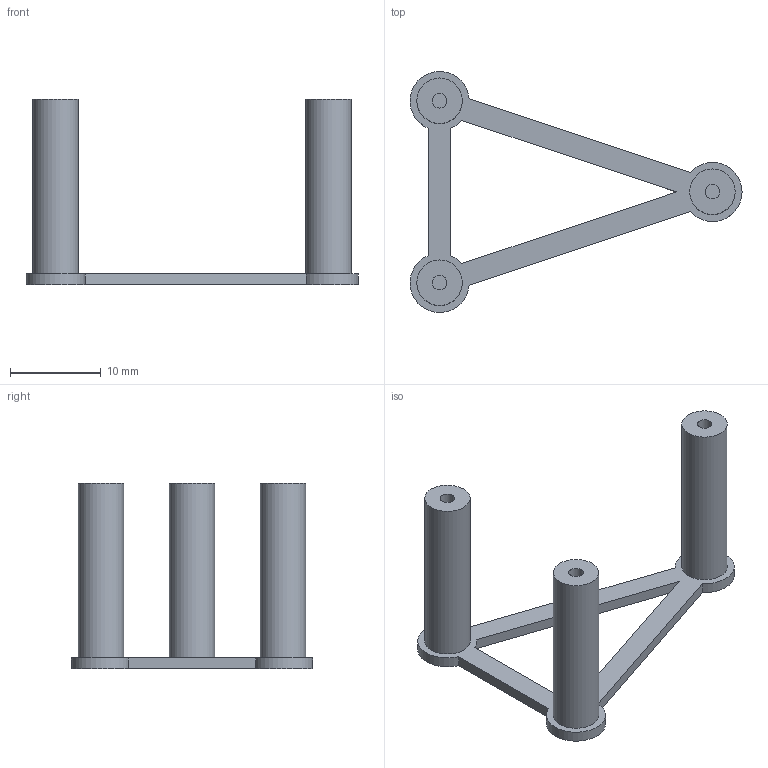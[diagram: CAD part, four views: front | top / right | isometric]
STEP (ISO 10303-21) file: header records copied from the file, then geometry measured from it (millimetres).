
FILE_DESCRIPTION(('Open CASCADE Model'),'2;1');
FILE_NAME('Open CASCADE Shape Model','2026-11-14T12:48:50',('Author'),( 'Open CASCADE'),'Open CASCADE STEP processor 7.9','Open CASCADE 7.9' ,'Unknown');
FILE_SCHEMA(('AUTOMOTIVE_DESIGN { 1 0 10303 214 1 1 1 1 }'));
Length unit declared in the file: millimetre
Products named in the file (1): Open CASCADE STEP translator 7.9 7
Bounding box: 36.5 x 26.5 x 20.4 mm (x, y, z)
Volume: 1406.8 mm3; surface area: 1725.6 mm2
Topology: 1 solids, 1 shells, 25 faces, 51 edges, 34 vertices
Faces by surface type: plane 14, cylinder 11
Full cylindrical faces by diameter (mm): 1.6 x3, 5 x3
Entity records: 1350 total; most frequent: CARTESIAN_POINT 225, DIRECTION 225, LINE 109, VECTOR 109, ORIENTED_EDGE 102, PCURVE 102, DEFINITIONAL_REPRESENTATION 102, EDGE_CURVE 51
